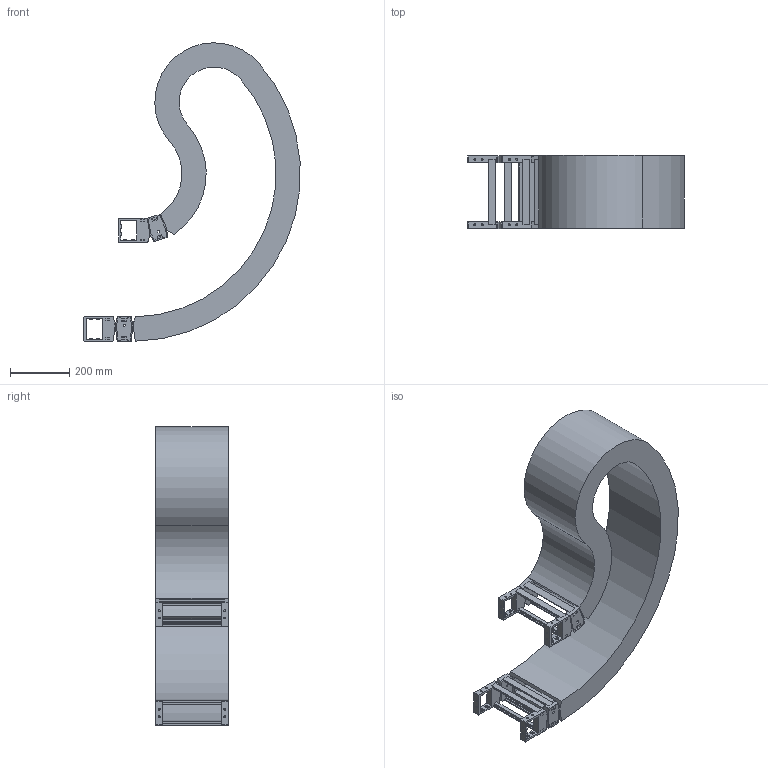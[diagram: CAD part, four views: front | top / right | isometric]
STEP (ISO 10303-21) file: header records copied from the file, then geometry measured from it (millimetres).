
FILE_DESCRIPTION( ( 'STEP AP214' ), '1' );
FILE_NAME( 'p:/temp/worker_17/temp/exporttempdir_268_699_UeS2M/format_2/RV060CRA245249.5165120400485-002003025.05950.stp', '2021-07-27T05:42:31', ( 'License CC BY-ND 4.0' ), ( 'CADENAS' ), ' ', 'PARTsolutions', ' ' );
FILE_SCHEMA( ( 'AUTOMOTIVE_DESIGN { 1 0 10303 214 1 1 1 1 }' ) );
Length unit declared in the file: millimetre
Products named in the file (4): RV060CRA245249.5165120400485-002003025.05950; _RV060CRA245253165120400485-002001845.047-Chain; _RV060CR-SU-200-60; _RV060CR_FB-245
Assembly tree (5 placements, depth 2):
  RV060CRA245249.5165120400485-002003025.05950
    _RV060CRA245253165120400485-002001845.047-Chain
    _RV060CR-SU-200-60  x2
    _RV060CR_FB-245  x2
Bounding box: 729.03 x 245 x 1006.74 mm (x, y, z)
Volume: 16876937.8 mm3; surface area: 2690124.7 mm2
Topology: 5 solids, 5 shells, 508 faces, 1476 edges, 988 vertices
Faces by surface type: plane 400, cylinder 108
Full cylindrical faces by diameter (mm): 6 x24
Entity records: 10820 total; most frequent: CARTESIAN_POINT 1528, ORIENTED_EDGE 1500, DIRECTION 1410, EDGE_CURVE 750, LINE 630, VECTOR 630, VERTEX_POINT 508, AXIS2_PLACEMENT_3D 390
